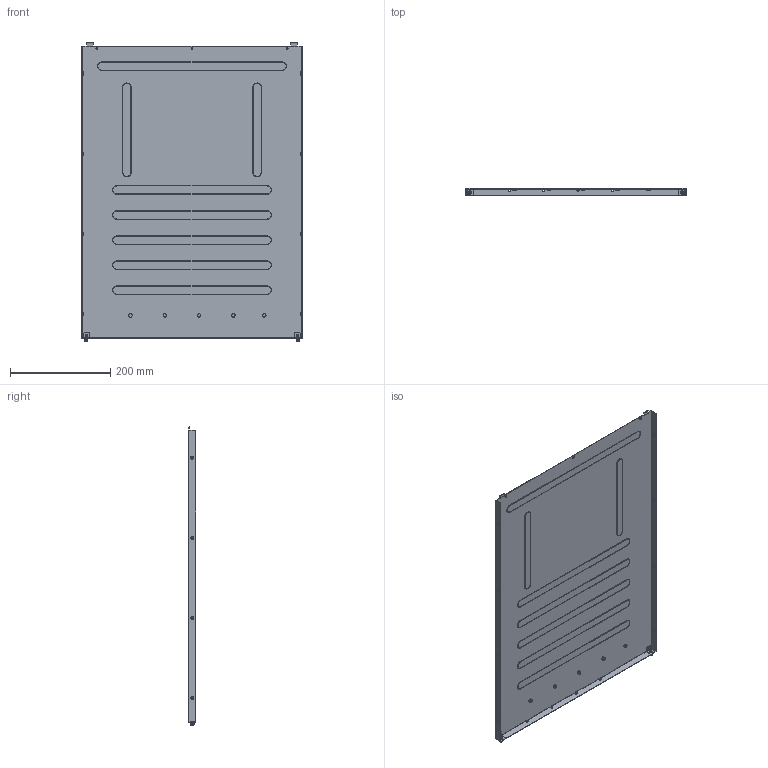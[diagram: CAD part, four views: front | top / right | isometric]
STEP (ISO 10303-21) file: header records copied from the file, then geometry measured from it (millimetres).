
FILE_DESCRIPTION((''),'2;1');
FILE_NAME('123200001173A_COVER_ASFG964BBX_ASM','2019-07-31T',('curtis_chen'),(''),'PRO/ENGINEER BY PARAMETRIC TECHNOLOGY CORPORATION, 2012480','PRO/ENGINEER BY PARAMETRIC TECHNOLOGY CORPORATION, 2012480','');
FILE_SCHEMA(('AUTOMOTIVE_DESIGN { 1 0 10303 214 1 1 1 1 }'));
Length unit declared in the file: millimetre
Products named in the file (5): COVER_ASFG964BBX-0818-111ZZ; SCREW-M3-D7-H59-L53; T-RIVET; RIVET_DOUBLE_2; 123200001173A_COVER_ASFG964BBX_ASM
Assembly tree (18 placements, depth 2):
  123200001173A_COVER_ASFG964BBX_ASM
    COVER_ASFG964BBX-0818-111ZZ
    SCREW-M3-D7-H59-L53  x2
    T-RIVET  x13
    RIVET_DOUBLE_2  x2
Bounding box: 440 x 14.8 x 595.73 mm (x, y, z)
Volume: 282368.8 mm3; surface area: 567493.6 mm2
Topology: 18 solids, 18 shells, 671 faces, 1555 edges, 968 vertices
Faces by surface type: cylinder 265, plane 264, cone 114, bspline 20, torus 8
Entity records: 19604 total; most frequent: CARTESIAN_POINT 6084, DIRECTION 2105, ORIENTED_EDGE 2024, EDGE_CURVE 1012, PRESENTATION_STYLE_ASSIGNMENT 983, STYLED_ITEM 983, CURVE_STYLE 980, AXIS2_PLACEMENT_3D 750
